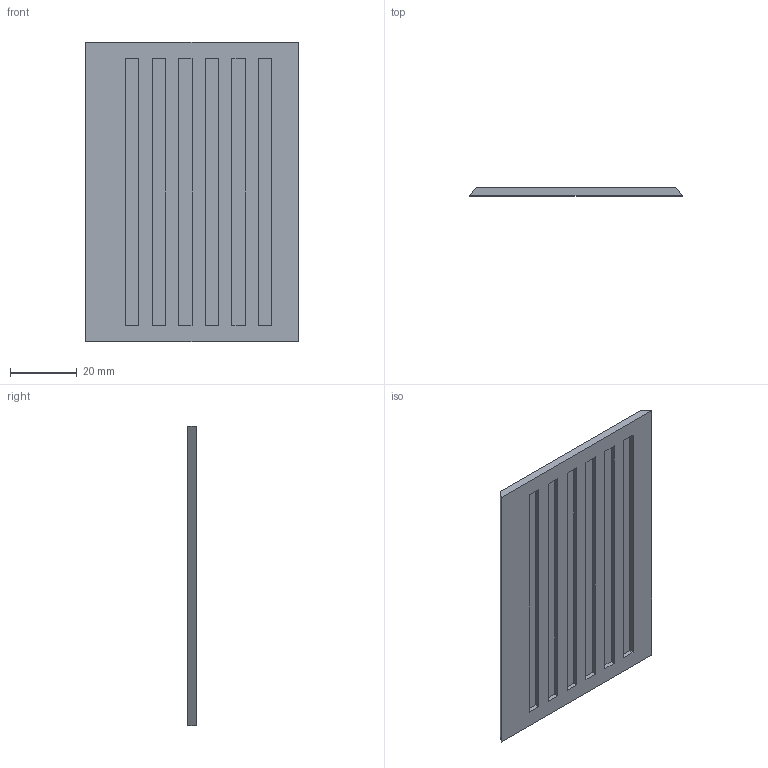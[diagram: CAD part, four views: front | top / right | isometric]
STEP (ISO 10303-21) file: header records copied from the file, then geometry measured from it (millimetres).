
FILE_DESCRIPTION(('Open CASCADE Model'),'2;1');
FILE_NAME('Open CASCADE Shape Model','2026-11-01T05:34:04',('Author'),( 'Open CASCADE'),'Open CASCADE STEP processor 7.8','Open CASCADE 7.8' ,'Unknown');
FILE_SCHEMA(('AUTOMOTIVE_DESIGN { 1 0 10303 214 1 1 1 1 }'));
Length unit declared in the file: millimetre
Products named in the file (1): Open CASCADE STEP translator 7.8 12
Bounding box: 64 x 2.5 x 90 mm (x, y, z)
Volume: 11454 mm3; surface area: 13356.7 mm2
Topology: 1 solids, 1 shells, 36 faces, 84 edges, 56 vertices
Faces by surface type: plane 36
Entity records: 2110 total; most frequent: CARTESIAN_POINT 345, DIRECTION 326, LINE 252, VECTOR 252, ORIENTED_EDGE 168, PCURVE 168, DEFINITIONAL_REPRESENTATION 168, EDGE_CURVE 84
